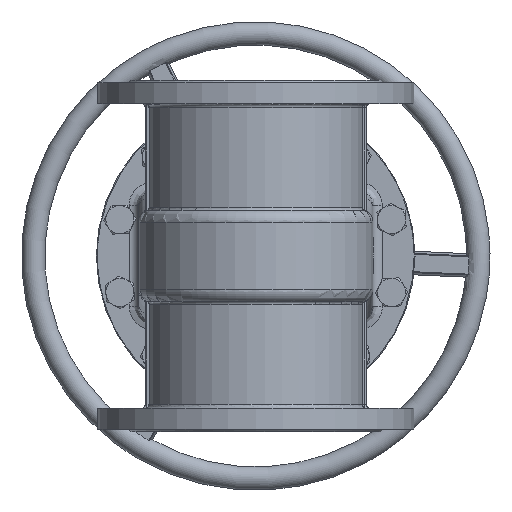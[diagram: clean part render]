
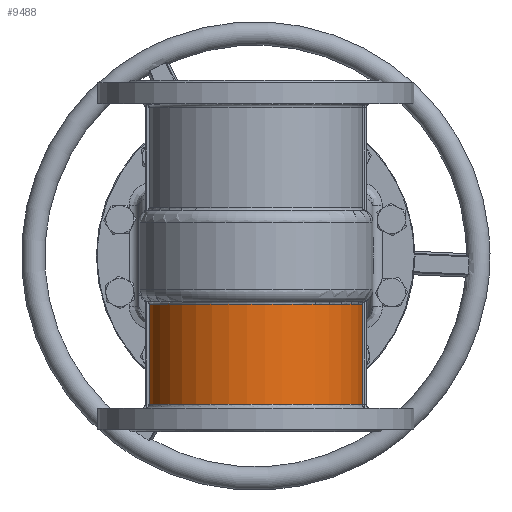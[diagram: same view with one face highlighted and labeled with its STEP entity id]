
A CAD part, front view. The second image highlights one B-rep face of the part: STEP entity #9488.
In plain terms, the highlighted cylindrical face has radius 138 mm (diameter 276 mm), a partial arc.
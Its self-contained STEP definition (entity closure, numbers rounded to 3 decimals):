
#9488=ADVANCED_FACE('',(#20529),#20531,.T.);
#20529=FACE_BOUND('',#20530,.T.);
#20530=EDGE_LOOP('',(#26384,#26385,#26386,#26387));
#20531=CYLINDRICAL_SURFACE('',#20532,138.);
#20532=AXIS2_PLACEMENT_3D('',#20533,#20534,#20535);
#20533=CARTESIAN_POINT('',(0.,0.,-169.2));
#20534=DIRECTION('',(0.,0.,1.));
#20535=DIRECTION('',(1.,0.,0.));
#26384=ORIENTED_EDGE('',*,*,#29434,.F.);
#26385=ORIENTED_EDGE('',*,*,#29318,.T.);
#26386=ORIENTED_EDGE('',*,*,#29314,.F.);
#26387=ORIENTED_EDGE('',*,*,#29311,.F.);
#29311=EDGE_CURVE('',#33465,#33468,#33469,.T.);
#29314=EDGE_CURVE('',#33468,#33472,#33473,.T.);
#29318=EDGE_CURVE('',#33476,#33472,#33479,.T.);
#29434=EDGE_CURVE('',#33476,#33465,#33662,.F.);
#33465=VERTEX_POINT('',#63291);
#33468=VERTEX_POINT('',#63296);
#33469=LINE('',#63297,#63298);
#33472=VERTEX_POINT('',#63382);
#33473=CIRCLE('',#63383,138.);
#33476=VERTEX_POINT('',#63458);
#33479=LINE('',#63465,#63466);
#33662=CIRCLE('',#64764,138.);
#63291=CARTESIAN_POINT('',(-136.393,-21.,-190.));
#63296=CARTESIAN_POINT('',(-136.393,-21.,-61.79));
#63297=CARTESIAN_POINT('',(-136.393,-21.,-190.));
#63298=VECTOR('',#63299,1.);
#63299=DIRECTION('',(0.,0.,1.));
#63382=CARTESIAN_POINT('',(136.393,-21.,-61.79));
#63383=AXIS2_PLACEMENT_3D('',#63384,#63385,#63386);
#63384=CARTESIAN_POINT('',(0.,0.,-61.79));
#63385=DIRECTION('',(0.,0.,1.));
#63386=DIRECTION('',(-0.988,-0.152,0.));
#63458=CARTESIAN_POINT('',(136.393,-21.,-190.));
#63465=CARTESIAN_POINT('',(136.393,-21.,-190.));
#63466=VECTOR('',#63467,1.);
#63467=DIRECTION('',(0.,0.,1.));
#64764=AXIS2_PLACEMENT_3D('',#64765,#64766,#64767);
#64765=CARTESIAN_POINT('',(0.,0.,-190.));
#64766=DIRECTION('',(0.,0.,1.));
#64767=DIRECTION('',(-0.988,-0.152,0.));
